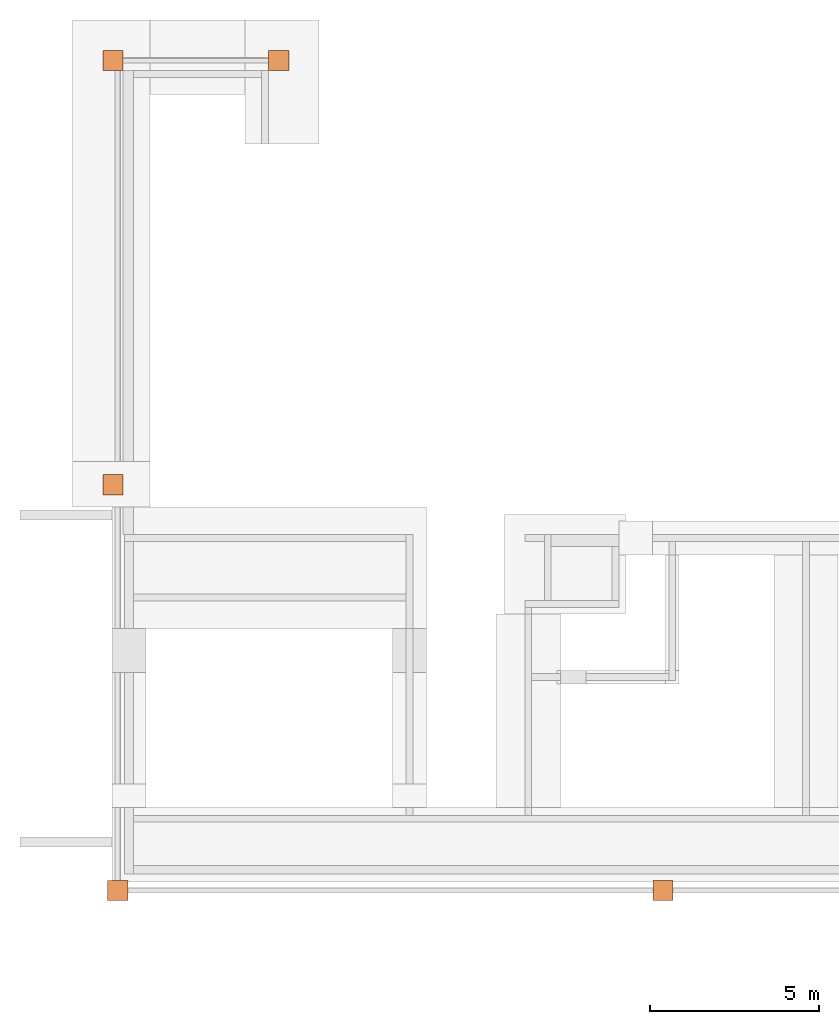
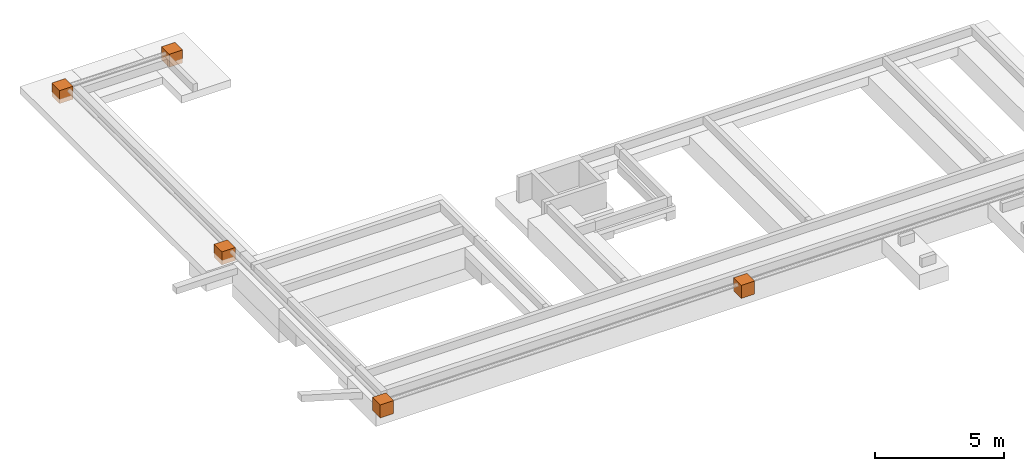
# One storey, part 4 of 4: 5 proxies.
"""IFC2X3 building model written with IfcOpenShell, lengths in metres."""

from ifc_helpers import new_model, entity, si_unit, converted_unit, derived_unit, direction, frame, frame_2d, origin, place, context, subcontext, project, spatial, polyline, rectangle, outline, extrude, source, transform, mapped, material, type_object, type_shapes, element, save


model = new_model("IFC2X3")

# Units and contexts
model_context = context("Model", 3, precision=1e-05, world=origin(), true_north=direction((6.12303176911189e-17, 1.0)))
body_context = subcontext(model_context, "Body", "Model", "MODEL_VIEW")
ifc_project = project(units=[si_unit("LENGTHUNIT", "METRE"), si_unit("AREAUNIT", "SQUARE_METRE"), si_unit("VOLUMEUNIT", "CUBIC_METRE"), converted_unit("PLANEANGLEUNIT", "DEGREE", entity("IfcRatioMeasure", 0.0174532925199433), si_unit("PLANEANGLEUNIT", "RADIAN"), dimensions=[0, 0, 0, 0, 0, 0, 0]), si_unit("MASSUNIT", "GRAM", prefix="KILO"), derived_unit("MASSDENSITYUNIT", [(si_unit("MASSUNIT", "GRAM", prefix="KILO"), 1), (si_unit("LENGTHUNIT", "METRE"), -3)]), si_unit("TIMEUNIT", "SECOND"), si_unit("FREQUENCYUNIT", "HERTZ"), si_unit("THERMODYNAMICTEMPERATUREUNIT", "DEGREE_CELSIUS"), derived_unit("THERMALTRANSMITTANCEUNIT", [(si_unit("MASSUNIT", "GRAM", prefix="KILO"), 1), (si_unit("THERMODYNAMICTEMPERATUREUNIT", "KELVIN"), -1), (si_unit("TIMEUNIT", "SECOND"), -3)]), derived_unit("VOLUMETRICFLOWRATEUNIT", [(si_unit("LENGTHUNIT", "METRE"), 3), (si_unit("TIMEUNIT", "SECOND"), -1)]), si_unit("ELECTRICCURRENTUNIT", "AMPERE"), si_unit("ELECTRICVOLTAGEUNIT", "VOLT"), si_unit("POWERUNIT", "WATT"), si_unit("FORCEUNIT", "NEWTON"), si_unit("ILLUMINANCEUNIT", "LUX"), si_unit("LUMINOUSFLUXUNIT", "LUMEN"), si_unit("LUMINOUSINTENSITYUNIT", "CANDELA"), derived_unit("USERDEFINED", [(si_unit("MASSUNIT", "GRAM", prefix="KILO"), -1), (si_unit("LENGTHUNIT", "METRE"), -2), (si_unit("TIMEUNIT", "SECOND"), 3), (si_unit("LUMINOUSFLUXUNIT", "LUMEN"), 1)]), derived_unit("LINEARVELOCITYUNIT", [(si_unit("LENGTHUNIT", "METRE"), 1), (si_unit("TIMEUNIT", "SECOND"), -1)]), si_unit("PRESSUREUNIT", "PASCAL"), derived_unit("USERDEFINED", [(si_unit("LENGTHUNIT", "METRE"), -2), (si_unit("MASSUNIT", "GRAM", prefix="KILO"), 1), (si_unit("TIMEUNIT", "SECOND"), -2)])], contexts=[model_context])

# Site, building, storey
site_placement = place(None, origin())
site = spatial("IfcSite", under=ifc_project, at=site_placement, Name="Default", CompositionType="ELEMENT")
building_placement = place(site_placement, origin())
building = spatial("IfcBuilding", under=site, at=building_placement, CompositionType="ELEMENT")
storey_placement = place(building_placement, frame((0.0, 0.0, -5.05)))
storey = spatial("IfcBuildingStorey", under=building, at=storey_placement, Name="S02", CompositionType="ELEMENT", Elevation=-5.05)

# Proxies
ifc_material = material(Name="Béton - Coulé sur place - Béton")
building_element_proxy_type = type_object("IfcBuildingElementProxyType", Name="II_Regards borgnes", PredefinedType="NOTDEFINED", material=ifc_material)
shared_shape = source(origin(), body_context, "Body", "SweptSolid", [
    extrude(rectangle(XDim=0.599999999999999, YDim=0.6, at=frame_2d((0.0, 2.77555756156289e-17), x_axis=(1.0, 0.0))), frame((0.00444012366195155, -0.003824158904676, 0.35), z_axis=(0.0, 0.0, 1.0), x_axis=(-1.0, 0.0, 0.0)), (0.0, 0.0, 1.0), 0.0500000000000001),
    extrude(rectangle(XDim=0.599999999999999, YDim=0.599999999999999, at=frame_2d((-5.55111512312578e-17, 2.77555756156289e-17), x_axis=(1.0, 0.0))), frame((0.00444012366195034, -0.00382415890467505, -0.214251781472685), z_axis=(0.0, 0.0, 1.0), x_axis=(-1.0, 0.0, 0.0)), (0.0, 0.0, 1.0), 0.0524940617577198),
    extrude(outline(polyline([(-0.3, -0.3), (0.3, -0.3), (0.3, 0.3), (-0.3, 0.3), (-0.3, -0.3)]), holes=[polyline([(-0.241119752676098, -0.25), (-0.241119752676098, 0.242351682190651), (0.25, 0.242351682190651), (0.25, -0.25), (-0.241119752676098, -0.25)])]), frame((0.00444012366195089, -0.00382415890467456, -0.161757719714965), z_axis=(0.0, 0.0, 1.0), x_axis=(-1.0, 0.0, 0.0)), (0.0, 0.0, 1.0), 0.511757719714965),
])
type_shapes(building_element_proxy_type, [shared_shape])
for number, where, name in (
    (1, (33.1286274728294, -195.479651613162, 0.0), "II_Regard borgne:II_Regards borgnes"),
    (2, (49.252460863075, -195.479651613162, 0.0), "II_Regard borgne:II_Regards borgnes"),
    (3, (32.9886274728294, -183.479651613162, 0.0), "II_Regard borgne:II_Regards borgnes"),
    (4, (32.9886274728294, -170.930958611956, 0.0), "II_Regard borgne:II_Regards borgnes"),
    (5, (37.8853035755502, -170.930958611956, 0.0), "II_Regard borgne:II_Regards borgnes"),
):
    element("IfcBuildingElementProxy", number, at=place(storey_placement, frame(where)), inside=storey, type_object=building_element_proxy_type, material=ifc_material, Name=name, ObjectType="II_Regard borgne:II_Regards borgnes", context=body_context, shape_type="MappedRepresentation", body=[
        mapped(shared_shape, transform((0.0, 0.0, 0.0), scale=1.0)),
    ])

save(model, "model.ifc")
